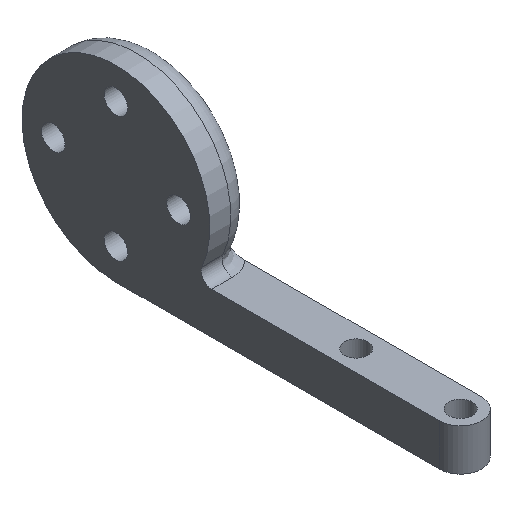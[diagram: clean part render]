
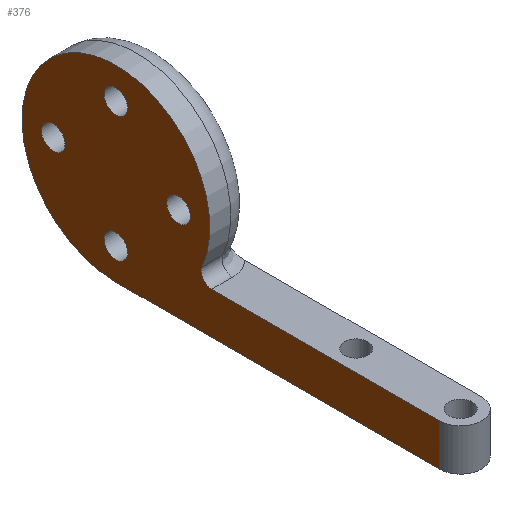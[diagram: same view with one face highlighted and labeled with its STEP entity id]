
A CAD part, isometric view. The second image highlights one B-rep face of the part: STEP entity #376.
In plain terms, the highlighted planar face has unit normal (-1, 0, 0).
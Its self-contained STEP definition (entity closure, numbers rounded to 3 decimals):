
#31=FACE_BOUND('',#72,.T.);
#32=FACE_BOUND('',#73,.T.);
#33=FACE_BOUND('',#74,.T.);
#34=FACE_BOUND('',#75,.T.);
#51=FACE_OUTER_BOUND('',#71,.T.);
#71=EDGE_LOOP('',(#334,#335,#336,#337,#338));
#72=EDGE_LOOP('',(#339));
#73=EDGE_LOOP('',(#340));
#74=EDGE_LOOP('',(#341));
#75=EDGE_LOOP('',(#342));
#96=LINE('',#548,#113);
#98=LINE('',#558,#115);
#108=LINE('',#792,#125);
#113=VECTOR('',#442,10.);
#115=VECTOR('',#452,10.);
#125=VECTOR('',#520,10.);
#134=CIRCLE('',#403,1.);
#147=CIRCLE('',#418,9.);
#148=CIRCLE('',#421,1.125);
#149=CIRCLE('',#423,1.125);
#150=CIRCLE('',#425,1.125);
#151=CIRCLE('',#427,1.125);
#155=VERTEX_POINT('',#536);
#158=VERTEX_POINT('',#546);
#161=VERTEX_POINT('',#554);
#170=VERTEX_POINT('',#656);
#182=VERTEX_POINT('',#730);
#184=VERTEX_POINT('',#776);
#185=VERTEX_POINT('',#780);
#186=VERTEX_POINT('',#784);
#187=VERTEX_POINT('',#788);
#194=EDGE_CURVE('',#155,#158,#96,.T.);
#199=EDGE_CURVE('',#155,#161,#98,.T.);
#210=EDGE_CURVE('',#170,#158,#134,.T.);
#227=EDGE_CURVE('',#182,#170,#147,.T.);
#234=EDGE_CURVE('',#184,#184,#148,.T.);
#236=EDGE_CURVE('',#185,#185,#149,.T.);
#238=EDGE_CURVE('',#186,#186,#150,.T.);
#240=EDGE_CURVE('',#187,#187,#151,.T.);
#241=EDGE_CURVE('',#161,#182,#108,.T.);
#334=ORIENTED_EDGE('',*,*,#199,.F.);
#335=ORIENTED_EDGE('',*,*,#194,.T.);
#336=ORIENTED_EDGE('',*,*,#210,.F.);
#337=ORIENTED_EDGE('',*,*,#227,.F.);
#338=ORIENTED_EDGE('',*,*,#241,.F.);
#339=ORIENTED_EDGE('',*,*,#236,.F.);
#340=ORIENTED_EDGE('',*,*,#240,.F.);
#341=ORIENTED_EDGE('',*,*,#238,.F.);
#342=ORIENTED_EDGE('',*,*,#234,.F.);
#360=PLANE('',#428);
#376=ADVANCED_FACE('',(#51,#31,#32,#33,#34),#360,.F.);
#403=AXIS2_PLACEMENT_3D('',#658,#462,#463);
#418=AXIS2_PLACEMENT_3D('',#732,#494,#495);
#421=AXIS2_PLACEMENT_3D('',#778,#501,#502);
#423=AXIS2_PLACEMENT_3D('',#782,#506,#507);
#425=AXIS2_PLACEMENT_3D('',#786,#511,#512);
#427=AXIS2_PLACEMENT_3D('',#790,#516,#517);
#428=AXIS2_PLACEMENT_3D('',#791,#518,#519);
#442=DIRECTION('',(0.,1.,0.));
#452=DIRECTION('',(0.,0.,-1.));
#462=DIRECTION('center_axis',(-1.,0.,0.));
#463=DIRECTION('ref_axis',(0.,0.837,-0.548));
#494=DIRECTION('center_axis',(1.,0.,0.));
#495=DIRECTION('ref_axis',(0.,1.,0.));
#501=DIRECTION('center_axis',(-1.,0.,0.));
#502=DIRECTION('ref_axis',(0.,1.,0.));
#506=DIRECTION('center_axis',(-1.,0.,0.));
#507=DIRECTION('ref_axis',(0.,1.,0.));
#511=DIRECTION('center_axis',(-1.,0.,0.));
#512=DIRECTION('ref_axis',(0.,1.,0.));
#516=DIRECTION('center_axis',(-1.,0.,0.));
#517=DIRECTION('ref_axis',(0.,1.,0.));
#518=DIRECTION('center_axis',(1.,0.,0.));
#519=DIRECTION('ref_axis',(0.,1.,0.));
#520=DIRECTION('',(0.,1.,0.));
#536=CARTESIAN_POINT('',(0.,-31.,-5.));
#546=CARTESIAN_POINT('',(0.,-9.165,-5.));
#548=CARTESIAN_POINT('',(0.,-33.,-5.));
#554=CARTESIAN_POINT('',(0.,-31.,-9.));
#558=CARTESIAN_POINT('',(0.,-31.,-2.5));
#656=CARTESIAN_POINT('',(0.,-8.249,-3.6));
#658=CARTESIAN_POINT('Origin',(0.,-9.165,-4.));
#730=CARTESIAN_POINT('',(0.,0.,-9.));
#732=CARTESIAN_POINT('Origin',(0.,0.,0.));
#776=CARTESIAN_POINT('',(0.,-7.125,0.));
#778=CARTESIAN_POINT('Origin',(0.,-6.,0.));
#780=CARTESIAN_POINT('',(0.,-1.125,-6.));
#782=CARTESIAN_POINT('Origin',(0.,0.,-6.));
#784=CARTESIAN_POINT('',(0.,4.875,0.));
#786=CARTESIAN_POINT('Origin',(0.,6.,0.));
#788=CARTESIAN_POINT('',(0.,-1.125,6.));
#790=CARTESIAN_POINT('Origin',(0.,0.,6.));
#791=CARTESIAN_POINT('Origin',(0.,0.,0.));
#792=CARTESIAN_POINT('',(0.,-33.,-9.));
